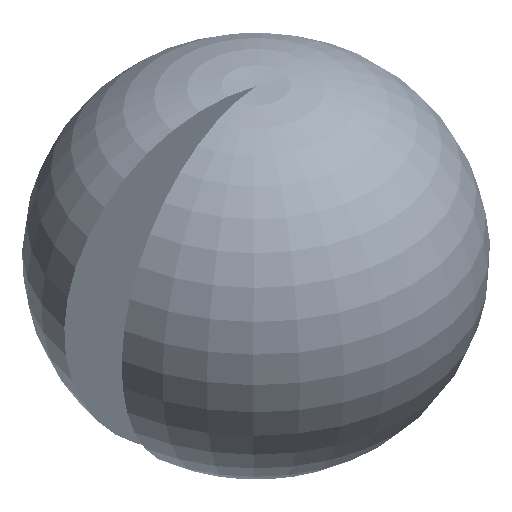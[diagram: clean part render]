
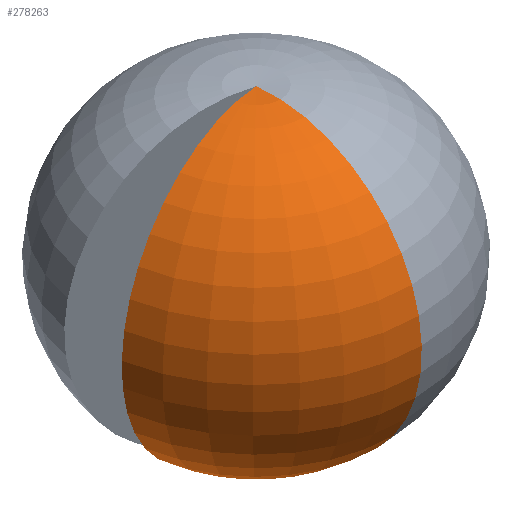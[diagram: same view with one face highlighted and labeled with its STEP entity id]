
A CAD part, isometric view. The second image highlights one B-rep face of the part: STEP entity #278263.
In plain terms, the highlighted toroidal (fillet/blend) face has major radius 320.127 mm and minor radius 2680.37 mm.
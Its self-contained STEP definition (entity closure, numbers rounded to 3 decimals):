
#19796 = ORIENTED_EDGE ( 'NONE', *, *, #78605, .T. ) ;
#29349 = AXIS2_PLACEMENT_3D ( 'NONE', #107179, #209839, #178508 ) ;
#32017 = EDGE_CURVE ( 'NONE', #97136, #151448, #359756, .T. ) ;
#34632 = CIRCLE ( 'NONE', #220048, 1857.524 ) ;
#34963 = DIRECTION ( 'NONE',  ( 0., 0., 1. ) ) ;
#68767 = DIRECTION ( 'NONE',  ( 0., -1., 0. ) ) ;
#78605 = EDGE_CURVE ( 'NONE', #95549, #97136, #34632, .T. ) ;
#88757 = CARTESIAN_POINT ( 'NONE',  ( 0., 0., 670. ) ) ;
#95549 = VERTEX_POINT ( 'NONE', #284584 ) ;
#97136 = VERTEX_POINT ( 'NONE', #287224 ) ;
#107179 = CARTESIAN_POINT ( 'NONE',  ( -315.264, -55.589, 670. ) ) ;
#108530 = CARTESIAN_POINT ( 'NONE',  ( 0., -320.127, 670. ) ) ;
#111057 = CARTESIAN_POINT ( 'NONE',  ( 0., 0., -1525.631 ) ) ;
#131583 = AXIS2_PLACEMENT_3D ( 'NONE', #108530, #240231, #34963 ) ;
#151448 = VERTEX_POINT ( 'NONE', #341019 ) ;
#153579 = FACE_OUTER_BOUND ( 'NONE', #289317, .T. ) ;
#175805 = DIRECTION ( 'NONE',  ( 0., 0., 1. ) ) ;
#178435 = ORIENTED_EDGE ( 'NONE', *, *, #326442, .F. ) ;
#178508 = DIRECTION ( 'NONE',  ( -0.985, -0.174, 0. ) ) ;
#193432 = CIRCLE ( 'NONE', #29349, 2680.371 ) ;
#209839 = DIRECTION ( 'NONE',  ( -0.174, 0.985, 0. ) ) ;
#220048 = AXIS2_PLACEMENT_3D ( 'NONE', #111057, #175805, #68767 ) ;
#222645 = DIRECTION ( 'NONE',  ( 0., -1., 0. ) ) ;
#225364 = AXIS2_PLACEMENT_3D ( 'NONE', #88757, #287334, #222645 ) ;
#240231 = DIRECTION ( 'NONE',  ( -1., 0., 0. ) ) ;
#246579 = ORIENTED_EDGE ( 'NONE', *, *, #32017, .T. ) ;
#278263 = ADVANCED_FACE ( 'NONE', ( #153579 ), #396543, .T. ) ;
#284584 = CARTESIAN_POINT ( 'NONE',  ( -1829.304, -322.556, -1525.631 ) ) ;
#287224 = CARTESIAN_POINT ( 'NONE',  ( 0., -1857.524, -1525.631 ) ) ;
#287334 = DIRECTION ( 'NONE',  ( 0., 0., 1. ) ) ;
#289317 = EDGE_LOOP ( 'NONE', ( #19796, #246579, #178435 ) ) ;
#326442 = EDGE_CURVE ( 'NONE', #95549, #151448, #193432, .T. ) ;
#341019 = CARTESIAN_POINT ( 'NONE',  ( 0., 0., 3331.185 ) ) ;
#359756 = CIRCLE ( 'NONE', #131583, 2680.371 ) ;
#396543 = TOROIDAL_SURFACE ( 'NONE', #225364, 320.127, 2680.371 ) ;
